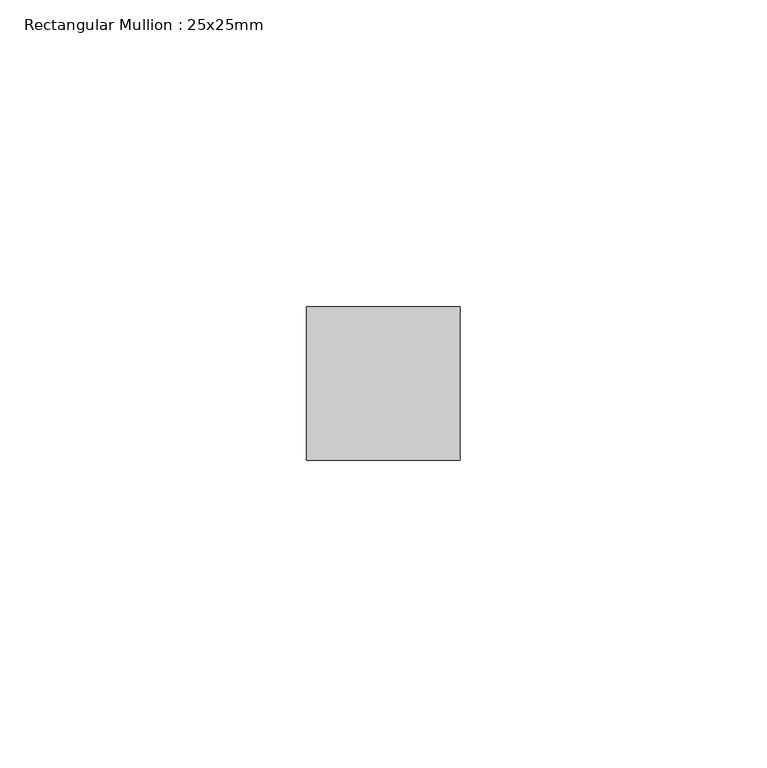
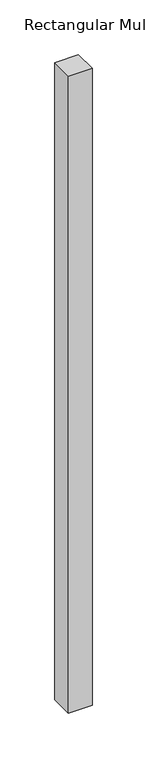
"""IFC4 building model written with IfcOpenShell, lengths in millimetres: member geometry, Rectangular Mullion : 25x25mm."""

from ifc_helpers import new_model, si_unit, frame, origin, place, context, project, spatial, polyline, outline, extrude, source, transform, mapped, element, save


def rectangular_mullion_25x25mm_bb12a420(model_context):
    return source(origin(), model_context, "Body", "SweptSolid", [
        extrude(outline(polyline([(0.0, 24.5), (0.0, -0.5), (-25.0, -0.5), (-25.0, 24.5), (0.0, 24.5)])), frame((0.0, 0.0, -710.0), z_axis=(0.0, 0.0, 1.0), x_axis=(1.0, 0.0, 0.0)), (0.0, 0.0, 1.0), 710.0),
    ])


if __name__ == "__main__":
    model = new_model("IFC4")
    model_context = context("Model", 3, world=origin())
    ifc_project = project(units=[si_unit("LENGTHUNIT", "METRE", prefix="MILLI")], contexts=[model_context])
    site = spatial("IfcSite", under=ifc_project)
    building = spatial("IfcBuilding", under=site)
    placement = place(None, origin())
    rectangular_mullion_25x25mm_shape = rectangular_mullion_25x25mm_bb12a420(model_context)
    element("IfcMember", 1, ObjectType="Rectangular Mullion : 25x25mm", at=placement, inside=building, context=model_context, shape_type="MappedRepresentation", body=[
        mapped(rectangular_mullion_25x25mm_shape, transform((0.0, 0.0, 0.0), x_axis=(1.0, 0.0, 0.0), y_axis=(0.0, 1.0, 0.0), z_axis=(0.0, 0.0, 1.0))),
    ])
    save(model, "model.ifc")
